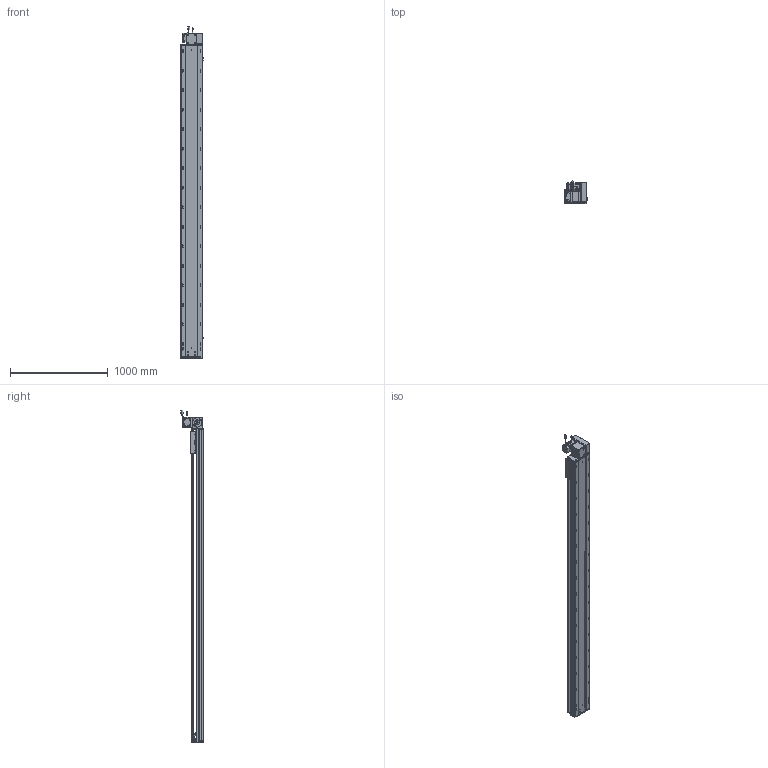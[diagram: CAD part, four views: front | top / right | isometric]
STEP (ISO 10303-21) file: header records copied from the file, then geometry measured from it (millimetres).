
FILE_DESCRIPTION (( 'STEP AP203' ), '1' );
FILE_NAME ('RY220-T-300-UR.SLDASM_2850.step', '2022-07-25T08:45:56', ( '' ), ( '' ), 'SwSTEP 2.0', 'SolidWorks 2016', '' );
FILE_SCHEMA (( 'CONFIG_CONTROL_DESIGN' ));
Length unit declared in the file: millimetre
Products named in the file (14): 怢湛750W_ECMA-CX0807ES; RY220翋肮祭謫釱; RY220-T-蛌殏萇儂假蚾啣(750W); RY220-同步轮副支撑座6304×2; 滅袉蝶18-15; RY220翋肮祭謫裔啣; RY220-T菁釱-300_2850; RY220-T-300-UR.SLDASM_2850; RY220圉猾敕々湍臏賑輸; RY220-T-300-奻裔啣_2850; RY220-T-湍謫欶(鍼踢); 110A-T-肮祭謫釱傷裔; 覜茼ん672; RY220-俋离672覜茼んえ
Assembly tree (18 placements, depth 2):
  RY220-T-300-UR.SLDASM_2850
    RY220-T菁釱-300_2850
    RY220翋肮祭謫釱
    覜茼ん672  x3
    RY220圉猾敕々湍臏賑輸
    RY220-T-300-奻裔啣_2850
    RY220-俋离672覜茼んえ
    滅袉蝶18-15  x3
    RY220翋肮祭謫裔啣  x2
    110A-T-肮祭謫釱傷裔
    怢湛750W_ECMA-CX0807ES
    RY220-T-湍謫欶(鍼踢)
    RY220-T-蛌殏萇儂假蚾啣(750W)
    RY220-同步轮副支撑座6304×2
Bounding box: 238.7 x 231.74 x 3403.27 mm (x, y, z)
Volume: 24228912.1 mm3; surface area: 7483668.2 mm2
Topology: 19 solids, 19 shells, 3012 faces, 8335 edges, 5220 vertices
Faces by surface type: cylinder 1488, plane 1069, cone 373, bspline 56, sphere 16, torus 10
Entity records: 100515 total; most frequent: CARTESIAN_POINT 28367, ORIENTED_EDGE 14906, DIRECTION 14396, EDGE_CURVE 7453, AXIS2_PLACEMENT_3D 5198, VERTEX_POINT 4844, LINE 4000, VECTOR 4000
